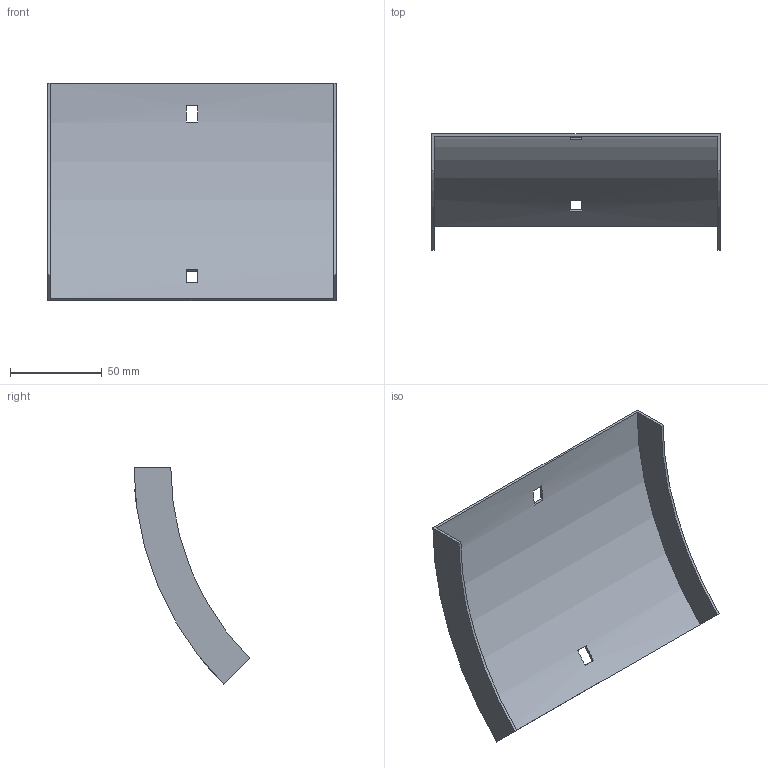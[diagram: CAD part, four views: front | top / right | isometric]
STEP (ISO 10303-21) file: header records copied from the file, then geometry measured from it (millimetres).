
FILE_DESCRIPTION (( 'STEP AP214' ), '1' );
FILE_NAME ('34N1H150.step', '2025-02-21T09:15:24', ( '' ), ( '' ), 'SwSTEP 2.0', 'SolidWorks 2023', '' );
FILE_SCHEMA (( 'AUTOMOTIVE_DESIGN' ));
Length unit declared in the file: millimetre
Products named in the file (1): 34N1H150
Bounding box: 157 x 63.06 x 118.09 mm (x, y, z)
Volume: 37384.3 mm3; surface area: 50869.3 mm2
Topology: 1 solids, 1 shells, 18 faces, 48 edges, 32 vertices
Faces by surface type: plane 14, cylinder 4
Entity records: 599 total; most frequent: DIRECTION 102, CARTESIAN_POINT 99, ORIENTED_EDGE 96, EDGE_CURVE 48, AXIS2_PLACEMENT_3D 35, LINE 32, VECTOR 32, VERTEX_POINT 32
